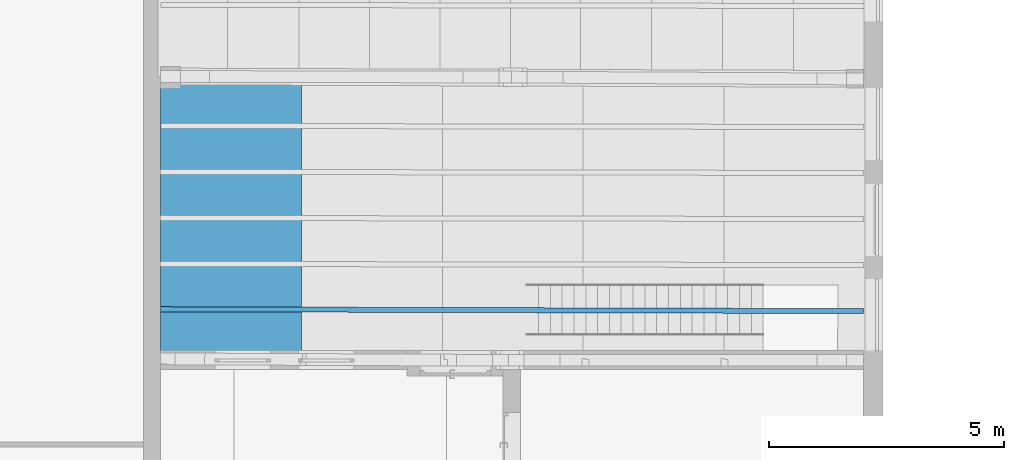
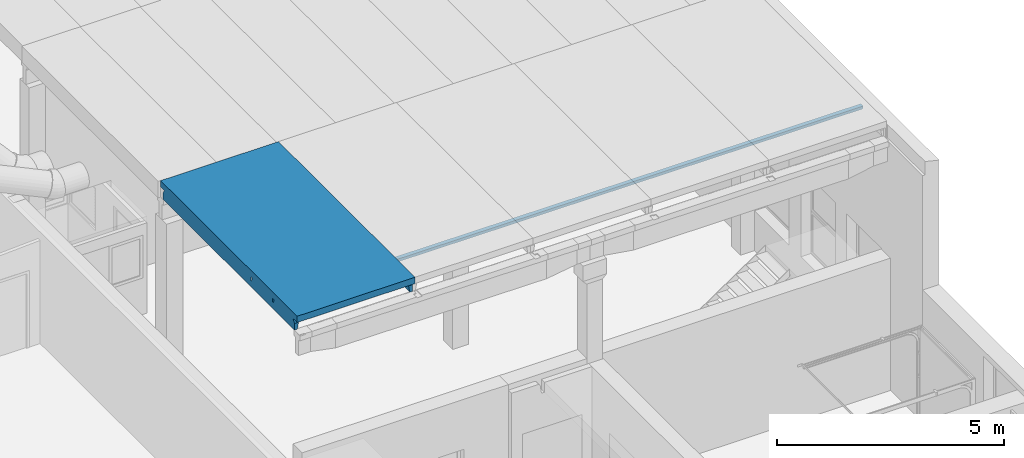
# One storey, part 26 of 301: 2 beams.
"""IFC2X3 building model written with IfcOpenShell, lengths in millimetres."""

from ifc_helpers import new_model, entity, si_unit, converted_unit, derived_unit, money_unit, direction, frame, origin_with_axes, place, context, subcontext, project, spatial, faceted_brep, material, type_object, element, save


model = new_model("IFC2X3")

# Units and contexts
model_context = context("Model", 3, precision=0.01, world=origin_with_axes(), true_north=direction((0.0, 1.0)))
body_context = subcontext(model_context, "Body", "Model", "MODEL_VIEW")
ifc_project = project(units=[si_unit("LENGTHUNIT", "METRE", prefix="MILLI"), si_unit("AREAUNIT", "SQUARE_METRE"), si_unit("VOLUMEUNIT", "CUBIC_METRE"), converted_unit("PLANEANGLEUNIT", "DEGREE", entity("IfcPlaneAngleMeasure", 0.0174532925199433), si_unit("PLANEANGLEUNIT", "RADIAN"), dimensions=[0, 0, 0, 0, 0, 0, 0]), money_unit("EUR"), converted_unit("TIMEUNIT", "Year", entity("IfcTimeMeasure", 31557600.0), si_unit("TIMEUNIT", "SECOND"), dimensions=[0, 0, 1, 0, 0, 0, 0]), si_unit("MASSUNIT", "GRAM", prefix="KILO"), si_unit("THERMODYNAMICTEMPERATUREUNIT", "DEGREE_CELSIUS"), si_unit("LUMINOUSINTENSITYUNIT", "LUMEN"), si_unit("ENERGYUNIT", "JOULE", prefix="MEGA"), derived_unit("THERMALCONDUCTANCEUNIT", [(si_unit("POWERUNIT", "WATT"), 1), (si_unit("LENGTHUNIT", "METRE"), -1), (si_unit("THERMODYNAMICTEMPERATUREUNIT", "KELVIN"), -1)]), derived_unit("SPECIFICHEATCAPACITYUNIT", [(si_unit("ENERGYUNIT", "JOULE"), 1), (si_unit("MASSUNIT", "GRAM", prefix="KILO"), -1), (si_unit("THERMODYNAMICTEMPERATUREUNIT", "KELVIN"), -1)]), derived_unit("MASSDENSITYUNIT", [(si_unit("MASSUNIT", "GRAM", prefix="KILO"), 1), (si_unit("VOLUMEUNIT", "CUBIC_METRE"), -1)])], contexts=[model_context])

# Site, building, storey
site_placement = place(None, frame((0.0, 0.0, 8650.0), z_axis=(0.0, 0.0, 1.0), x_axis=(1.0, 0.0, 0.0)))
site = spatial("IfcSite", under=ifc_project, at=site_placement, Name="43301:001:0844", CompositionType="ELEMENT")
building_placement = place(site_placement, origin_with_axes())
building = spatial("IfcBuilding", under=site, at=building_placement, Name="Kuressaare Ametikooli tuulikute mehaanikute õppekorpus", CompositionType="ELEMENT")
storey_placement = place(building_placement, origin_with_axes())
storey = spatial("IfcBuildingStorey", under=building, at=storey_placement, Name="1.korrus", CompositionType="ELEMENT", Elevation=0.0)

# Beams
ifc_material = material(Name="GENEERILINE - KONSTRUKTRIOON")
beam_type_1 = type_object("IfcBeamType", Name="Precast Double Tee 4 3000 x 440", PredefinedType="NOTDEFINED")
beam_1_placement = place(storey_placement, frame((89758.75644683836, 44085.15228588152, 7100.0), z_axis=(0.0, 0.0, 1.0), x_axis=(-1.0, 0.0, 0.0)))
element("IfcBeam", 1, at=beam_1_placement, inside=storey, type_object=beam_type_1, material=ifc_material, context=body_context, shape_type="Brep", body=[
    faceted_brep([(1500.0, 165.636818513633, -180.532857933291), (1500.0, 133.9641597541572, -221.5483087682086), (1500.0, 108.3720230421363, -266.6089685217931), (1500.0, 108.3714979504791, -440.0001340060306), (1500.0, 5902.994449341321, -440.0001340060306), (1500.0, 5902.993927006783, -267.5188171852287), (1500.0, 5877.401876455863, -222.4581574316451), (1500.0, 5845.729324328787, -181.4427065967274), (1500.0, 5834.766750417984, -169.9098486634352), (1500.0, 6017.898995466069, -169.9098486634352), (1500.0, 6017.898995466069, 0.0), (1500.0, 0.0, 0.0), (1500.004096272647, -1.388578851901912e-05, -168.9999999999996), (1500.0, 176.5994293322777, -168.9999999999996), (1500.0, 4036.32194531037, -175.4075010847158), (1500.0, 4031.747325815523, -184.2033640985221), (1500.0, 4011.007340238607, -271.7806445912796), (1500.0, 3991.006855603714, -271.7806445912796), (1500.0, 3991.006855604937, -169.8331663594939), (1500.0, 4044.5208029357, -169.8331663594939), (1500.0, 4997.144906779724, -184.2033640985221), (1500.0, 4976.404874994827, -271.7806445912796), (1500.0, 4956.404345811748, -271.7806445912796), (1500.0, 4956.404345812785, -169.8331663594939), (1500.0, 5009.918412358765, -169.8331663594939), (1500.0, 5001.71953646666, -175.4075010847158), (1365.910046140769, 166.0913647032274, -180.532857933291), (1371.752641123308, 163.3382519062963, -184.0724353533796), (1384.30381979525, 150.8840002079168, -200.1453415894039), (1390.327470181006, 135.8185824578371, -219.628309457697), (1390.629556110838, 134.334910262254, -221.5483087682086), (1397.719241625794, 108.7187405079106, -266.6089685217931), (1424.999996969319, 108.6257374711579, -440.0001340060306), (1424.999996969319, 5903.158040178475, -440.0001340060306), (1397.862394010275, 5903.216710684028, -267.5188171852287), (1390.772708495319, 5877.640124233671, -222.4581574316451), (1384.303819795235, 5860.424048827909, -200.1453415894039), (1371.752641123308, 5848.039762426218, -184.0724353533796), (1367.411885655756, 5846.018526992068, -181.4427065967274), (1390.327470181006, 5875.455857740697, -219.628309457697), (1354.310838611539, 5838.502659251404, -173.505793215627), (1334.723493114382, 5835.127253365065, -169.9098486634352), (1334.723493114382, 6017.898995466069, -169.9098486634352), (1334.253143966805, 6017.898995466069, -169.8234995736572), (1127.640522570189, 6017.898995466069, -169.9098486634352), (-1500.0, 6017.898995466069, -169.9098486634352), (-1500.0, 6017.898995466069, 0.0), (-1500.0, 0.0, 0.0), (-1500.0, 0.0, -168.9999999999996), (-1500.0, 186.7690097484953, -168.9999999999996), (-1370.461247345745, 175.3672806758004, -180.532857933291), (-1370.286968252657, 175.5518465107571, -180.338069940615), (-1354.45241394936, 183.0083260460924, -172.4372542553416), (-1336.819669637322, 184.3719519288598, -170.9398142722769), (1334.253143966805, 176.3785067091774, -169.8234995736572), (1354.310838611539, 172.8102928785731, -173.505793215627), (-1500.0, 175.8063989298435, -180.532857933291), (1357.449888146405, 4036.555536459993, -175.4075010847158), (1371.752641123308, 4032.025574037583, -184.0724353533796), (1371.854882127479, 4031.957312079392, -184.2033640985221), (1384.30381979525, 4028.161545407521, -200.1453415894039), (1390.327470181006, 4023.53773292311, -219.628309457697), (1398.532934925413, 4011.173610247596, -271.7806445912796), (1398.532934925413, 3971.173556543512, -271.7806445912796), (1499.967227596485, 3971.00734023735, -271.7806445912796), (1499.925744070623, 3945.691820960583, -175.4074260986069), (1499.912309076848, 3937.493052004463, -169.8331663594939), (1499.933240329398, 3950.266448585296, -184.2031688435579), (1334.253127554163, 3937.764511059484, -169.8331663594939), (-1500.0, 3942.408887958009, -169.8331663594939), (-1500.0, 4049.436782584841, -169.8331663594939), (1334.253120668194, 4044.792405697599, -169.8331663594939), (1354.310838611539, 4039.35775525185, -173.505793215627), (1371.854882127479, 4997.487348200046, -184.2033640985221), (1384.303819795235, 4993.678705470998, -200.1453415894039), (1390.327470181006, 4989.048656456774, -219.628309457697), (1398.532934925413, 4976.676024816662, -271.7806445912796), (1398.532934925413, 4936.675881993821, -271.7806445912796), (1499.946555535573, 4936.404874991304, -271.7806445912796), (1499.856995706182, 4902.890661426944, -169.8331663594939), (1499.891129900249, 4915.664029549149, -184.2031688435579), (1499.878905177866, 4911.089412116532, -175.4074260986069), (1334.253130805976, 4903.33320362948, -169.8331663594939), (-1500.0, 4910.907161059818, -169.8331663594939), (-1500.0, 5017.93529414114, -169.8331663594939), (1334.253113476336, 5010.361336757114, -169.8331663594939), (1354.310838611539, 5004.905941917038, -173.505793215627), (1357.449888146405, 5002.100472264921, -175.4075010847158), (1371.752641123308, 4997.555715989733, -184.0724353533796), (1371.752641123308, 1010.450868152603, -184.0724353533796), (1354.310838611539, 1003.175823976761, -173.505793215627), (1357.44976437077, 1005.967659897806, -175.4074260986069), (1371.854729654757, 1010.518694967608, -184.2031688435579), (1384.30381979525, 1014.273875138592, -200.1453415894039), (1390.327470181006, 1018.878149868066, -219.628309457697), (1398.532934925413, 1031.215925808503, -271.7806445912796), (1398.532934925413, 1071.215979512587, -271.7806445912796), (1390.327470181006, 1083.580102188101, -219.628309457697), (1390.327470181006, 1998.295398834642, -219.628309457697), (1398.532934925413, 2010.63317477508, -271.7806445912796), (1398.532934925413, 2050.633228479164, -271.7806445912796), (1390.327470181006, 2062.997351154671, -219.628309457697), (1390.327470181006, 2979.083601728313, -219.628309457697), (1398.532934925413, 2991.42137766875, -271.7806445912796), (1398.532934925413, 3031.421431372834, -271.7806445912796), (1390.327470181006, 3043.785554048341, -219.628309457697), (1390.327470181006, 3958.835780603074, -219.628309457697), (1390.327470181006, 4924.346559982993, -219.628309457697), (-1336.819669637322, 5015.871541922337, -170.9398142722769), (-1336.819669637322, 5841.933488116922, -170.9398142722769), (1127.640522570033, 5835.578945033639, -169.9098486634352), (-1500.0, 5841.310383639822, -169.9098486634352), (-1500.0, 5852.272957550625, -181.4427065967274), (-1500.0, 5883.945509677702, -222.4581574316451), (-1500.0, 5909.537560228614, -267.5188171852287), (-1500.0, 5909.538082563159, -440.0001340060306), (-1500.0, 118.5410783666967, -440.0001340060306), (-1500.0, 118.5416034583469, -266.6089685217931), (-1500.0, 144.1337401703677, -221.5483087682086), (-1500.0, 1010.650048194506, -175.4074260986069), (-1500.0, 1015.224688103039, -184.2031688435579), (-1500.0, 1035.965635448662, -271.7806445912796), (-1500.0, 1075.965689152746, -271.7806445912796), (-1500.0, 1096.705674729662, -184.2033640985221), (-1500.0, 1101.280294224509, -175.4075010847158), (-1500.0, 1109.479151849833, -169.8331663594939), (-1500.0, 1002.451257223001, -169.8331663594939), (-1500.0, 1994.641937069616, -184.2031688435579), (-1500.0, 2015.382884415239, -271.7806445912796), (-1500.0, 2055.382938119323, -271.7806445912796), (-1500.0, 2076.122923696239, -184.2033640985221), (-1500.0, 2080.697543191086, -175.4075010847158), (-1500.0, 2088.896400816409, -169.8331663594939), (-1500.0, 1981.868506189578, -169.8331663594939), (-1500.0, 1990.067297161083, -175.4074260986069), (-1500.0, 2996.171087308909, -271.7806445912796), (-1500.0, 3036.171141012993, -271.7806445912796), (-1500.0, 3056.91112658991, -184.2033640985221), (-1500.0, 3061.485746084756, -175.4075010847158), (-1500.0, 3069.68460371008, -169.8331663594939), (-1500.0, 2962.656709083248, -169.8331663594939), (-1500.0, 2970.855500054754, -175.4074260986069), (-1500.0, 2975.430139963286, -184.2031688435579), (-1500.0, 4015.923319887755, -271.7806445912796), (-1500.0, 4036.663305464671, -184.2033640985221), (-1500.0, 4041.237924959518, -175.4075010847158), (-1500.0, 3950.607678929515, -175.4074260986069), (-1500.0, 3955.182318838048, -184.2031688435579), (-1500.0, 3975.923266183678, -271.7806445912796), (-1500.0, 5005.161788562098, -184.2033640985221), (-1500.0, 5009.736418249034, -175.4075010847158), (-1500.0, 4919.105970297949, -175.4074260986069), (-1500.0, 4923.680620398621, -184.2031688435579), (-1500.0, 4944.421613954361, -271.7806445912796), (-1500.0, 4984.421756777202, -271.7806445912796), (-1370.286968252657, 1013.001906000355, -180.338069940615), (-1382.086528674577, 165.3730746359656, -193.5261847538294), (-1382.086528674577, 1017.239435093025, -193.5261847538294), (-1373.745117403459, 1015.01779929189, -184.2031688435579), (-1360.405134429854, 1010.421299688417, -175.4074260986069), (-1354.45241394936, 1006.042926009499, -172.4372542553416), (-1336.819669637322, 1003.811551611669, -170.9398142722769), (1334.253143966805, 997.8068802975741, -169.8331663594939), (-1388.184278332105, 152.5653986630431, -210.1386333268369), (-1390.259892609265, 143.7617365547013, -221.5483087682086), (1354.310838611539, 4908.681426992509, -173.505793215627), (1357.44976437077, 4911.470024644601, -175.4074260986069), (1371.752641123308, 4915.938458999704, -184.0724353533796), (1371.854729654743, 4916.006180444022, -184.2031688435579), (1384.303819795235, 4919.748501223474, -200.1453415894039), (1384.30381979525, 3954.231505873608, -200.1453415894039), (1371.854729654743, 3950.476325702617, -184.2031688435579), (1357.449764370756, 3945.925290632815, -175.4074260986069), (1354.310838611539, 3943.13345471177, -173.505793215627), (1371.752641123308, 3950.408498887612, -184.0724353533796), (-1354.45241394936, 3946.000556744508, -172.4372542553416), (-1360.40513442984, 3950.378930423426, -175.4074260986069), (-1336.819669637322, 3943.769182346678, -170.9398142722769), (-1336.819669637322, 4047.541702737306, -170.9398142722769), (-1360.405284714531, 4041.009176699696, -175.4075010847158), (-1354.45241394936, 4045.368128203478, -172.4372542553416), (-1360.40513442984, 4918.73293178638, -175.4074260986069), (-1336.819669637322, 4912.098790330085, -170.9398142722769), (-1354.45241394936, 4914.348395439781, -172.4372542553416), (-1360.405284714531, 5009.363380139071, -175.4075010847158), (-1354.45241394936, 5013.716188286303, -172.4372542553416), (1495.094731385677, 997.5433156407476, -169.8331663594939), (1495.108166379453, 1005.742084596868, -175.4074260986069), (1495.115662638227, 1010.316712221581, -184.2031688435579), (1495.149649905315, 1031.057603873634, -271.7806445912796), (1495.215196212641, 1071.057550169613, -271.7806445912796), (1384.30381979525, 1088.203914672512, -200.1453415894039), (1495.249181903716, 1091.79748005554, -184.2033640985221), (1371.854882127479, 1091.999681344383, -184.2033640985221), (1384.30381979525, 1993.691124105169, -200.1453415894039), (1496.720590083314, 1989.731331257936, -184.2031688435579), (1496.754577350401, 2010.472222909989, -271.7806445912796), (1371.854729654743, 1989.935943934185, -184.2031688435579), (1496.820123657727, 2050.472169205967, -271.7806445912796), (1496.854109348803, 2071.212099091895, -184.2033640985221), (1371.854882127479, 2071.416930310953, -184.2033640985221), (1384.30381979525, 2067.621163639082, -200.1453415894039), (1384.30381979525, 2974.479326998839, -200.1453415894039), (1498.361751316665, 2991.257792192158, -271.7806445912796), (1371.854729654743, 2970.724146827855, -184.2031688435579), (1498.327764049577, 2970.516900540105, -184.2031688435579), (1498.427297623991, 3031.257738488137, -271.7806445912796), (1498.461283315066, 3051.997668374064, -184.2033640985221), (1371.854882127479, 3052.20513320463, -184.2033640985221), (1384.30381979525, 3048.409366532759, -200.1453415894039), (-1354.45241394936, 5843.395342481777, -172.4372542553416), (-1371.275299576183, 5851.99218180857, -181.4427065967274), (-1370.286968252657, 5850.940012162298, -180.338069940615), (-1388.184278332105, 5874.188353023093, -210.1386333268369), (-1390.425409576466, 5883.706504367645, -222.4581574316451), (-1382.086528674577, 5861.346749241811, -193.5261847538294), (-1398.622710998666, 5909.316434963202, -267.5188171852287), (-1430.000000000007, 5909.385397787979, -440.0001340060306), (-1430.000000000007, 118.3037881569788, -440.0001340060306), (-1398.457194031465, 118.1973875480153, -266.6089685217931), (-1388.184278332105, 1021.183748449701, -210.1386333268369), (-1399.398009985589, 1035.800783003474, -271.7806445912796), (-1399.398009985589, 1075.800836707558, -271.7806445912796), (-1388.184278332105, 1090.380475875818, -210.1386333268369), (-1382.086528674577, 1094.304631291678, -193.5261847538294), (-1373.745292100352, 1096.498786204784, -184.2033640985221), (-1370.286968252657, 1098.503410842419, -180.338069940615), (-1360.405284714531, 1101.051545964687, -175.4075010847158), (-1354.45241394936, 1105.410497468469, -172.4372542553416), (-1336.819669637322, 1107.584072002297, -170.9398142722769), (1334.253120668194, 1104.83477496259, -169.8331663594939), (1495.270113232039, 1104.570922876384, -169.8331663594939), (-1373.745117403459, 1994.43504825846, -184.2031688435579), (-1382.086528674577, 1996.656684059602, -193.5261847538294), (-1388.184278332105, 2000.600997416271, -210.1386333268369), (-1399.398009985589, 2015.218031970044, -271.7806445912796), (-1399.398009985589, 2055.218085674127, -271.7806445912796), (-1388.184278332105, 2069.797724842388, -210.1386333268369), (-1382.086528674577, 2073.721880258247, -193.5261847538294), (-1373.745292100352, 2075.916035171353, -184.2033640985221), (-1370.286968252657, 2077.920659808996, -180.338069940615), (-1360.405284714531, 2080.468794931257, -175.4075010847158), (-1354.45241394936, 2084.827746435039, -172.4372542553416), (-1336.819669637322, 2087.001320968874, -170.9398142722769), (1334.253120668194, 2084.25202392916, -169.8331663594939), (1496.875040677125, 2083.985541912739, -169.8331663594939), (1496.699658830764, 1976.957934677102, -169.8331663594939), (1334.253124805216, 1977.22412929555, -169.8331663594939), (-1336.819669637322, 1983.228800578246, -170.9398142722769), (-1354.45241394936, 1985.460174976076, -172.4372542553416), (-1360.40513442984, 1989.838548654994, -175.4074260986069), (-1370.286968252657, 1992.419154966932, -180.338069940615), (-1399.398009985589, 2996.006234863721, -271.7806445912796), (-1399.398009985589, 3036.006288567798, -271.7806445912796), (-1388.184278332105, 3050.585927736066, -210.1386333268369), (-1382.086528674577, 3054.510083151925, -193.5261847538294), (-1373.745292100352, 3056.70423806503, -184.2033640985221), (-1370.286968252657, 3058.708862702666, -180.338069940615), (-1360.405284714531, 3061.256997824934, -175.4075010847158), (-1354.45241394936, 3065.615949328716, -172.4372542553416), (-1336.819669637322, 3067.789523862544, -170.9398142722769), (1334.253120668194, 3065.040226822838, -169.8331663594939), (1498.482214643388, 3064.771111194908, -169.8331663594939), (1498.306832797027, 2957.743503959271, -169.8331663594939), (1334.253125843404, 2958.012332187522, -169.8331663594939), (-1336.819669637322, 2964.017003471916, -170.9398142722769), (-1354.45241394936, 2966.248377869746, -172.4372542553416), (-1360.40513442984, 2970.626751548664, -175.4074260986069), (-1370.286968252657, 2973.207357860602, -180.338069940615), (-1373.745117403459, 2975.223251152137, -184.2031688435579), (-1382.086528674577, 2977.444886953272, -193.5261847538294), (-1388.184278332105, 2981.389200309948, -210.1386333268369), (-1382.086528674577, 4034.262262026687, -193.5261847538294), (-1373.745292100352, 4036.456416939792, -184.2033640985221), (-1399.398009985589, 4015.758467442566, -271.7806445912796), (-1388.184278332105, 4030.338106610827, -210.1386333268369), (-1370.286968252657, 4038.461041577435, -180.338069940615), (-1370.286968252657, 3952.959536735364, -180.338069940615), (-1373.745117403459, 3954.975430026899, -184.2031688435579), (-1388.184278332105, 3961.14137918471, -210.1386333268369), (-1399.398009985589, 3975.758413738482, -271.7806445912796), (-1382.086528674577, 3957.197065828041, -193.5261847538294), (-1373.745292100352, 5004.82439887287, -184.2033640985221), (-1370.286968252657, 5006.825453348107, -180.338069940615), (-1373.745117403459, 4923.343230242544, -184.2031688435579), (-1370.286968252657, 4921.323758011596, -180.338069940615), (-1399.398009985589, 4944.152775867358, -271.7806445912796), (-1382.086528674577, 4925.57349292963, -193.5261847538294), (-1388.184278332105, 4929.524117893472, -210.1386333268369), (-1399.398009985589, 4984.152918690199, -271.7806445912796), (-1388.184278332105, 4998.720999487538, -210.1386333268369), (-1382.086528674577, 5002.638860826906, -193.5261847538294), (1371.752641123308, 3052.273395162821, -184.0724353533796), (1354.310838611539, 3059.605576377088, -173.505793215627), (1357.449888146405, 3056.803357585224, -175.4075010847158), (1495.256678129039, 1096.372087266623, -175.4075010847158), (1357.449888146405, 1096.597905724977, -175.4075010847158), (1371.752641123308, 1092.067943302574, -184.0724353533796), (1371.752641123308, 1989.86811711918, -184.0724353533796), (1496.713093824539, 1985.156703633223, -175.4074260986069), (1496.861605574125, 2075.786706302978, -175.4075010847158), (1357.449764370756, 1985.384908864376, -175.4074260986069), (1371.752641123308, 2071.485192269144, -184.0724353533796), (1357.449888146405, 2076.015154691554, -175.4075010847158), (1371.752641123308, 2970.65632001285, -184.0724353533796), (1498.320267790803, 2965.942272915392, -175.4074260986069), (1357.44976437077, 2966.173111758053, -175.4074260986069), (1498.468779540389, 3056.572275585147, -175.4075010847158), (1354.310838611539, 1099.400124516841, -173.505793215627), (1354.310838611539, 2078.817373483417, -173.505793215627), (1354.310838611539, 1982.593072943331, -173.505793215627), (1354.310838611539, 2963.381275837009, -173.505793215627)], [[[0, 1, 2, 3, 4, 5, 6, 7, 8, 9, 10, 11, 12, 13], [14, 15, 16, 17, 18, 19], [20, 21, 22, 23, 24, 25]], [[1, 0, 26, 27, 28, 29, 30]], [[1, 30, 31, 2]], [[2, 31, 32, 3]], [[33, 4, 3, 32]], [[33, 34, 5, 4]], [[34, 35, 6, 5]], [[36, 37, 38, 7, 6, 35, 39]], [[8, 7, 38, 40, 41]], [[41, 42, 9, 8]], [[43, 44, 45, 46, 10, 9, 42]], [[47, 11, 10, 46]], [[47, 48, 12, 11]], [[13, 12, 48, 49]], [[50, 51, 52, 53, 54, 55, 26, 0, 13, 49, 56]], [[15, 14, 57, 58, 59]], [[16, 15, 59, 60, 61, 62]], [[17, 16, 62, 63, 64]], [[65, 66, 18, 17, 64, 67]], [[66, 68, 69, 70, 71, 19, 18]], [[14, 19, 71, 72, 57]], [[20, 73, 74, 75, 76, 21]], [[21, 76, 77, 78, 22]], [[79, 23, 22, 78, 80, 81]], [[82, 83, 84, 85, 24, 23, 79]], [[24, 85, 86, 87, 25]], [[25, 87, 88, 73, 20]], [[89, 27, 26, 55, 90, 91]], [[92, 93, 28, 27, 89]], [[28, 93, 94, 29]], [[77, 76, 75, 39, 35, 34, 33, 32, 31, 30, 29, 94, 95, 96, 97, 98, 99, 100, 101, 102, 103, 104, 105, 106, 63, 62, 61, 107]], [[74, 73, 88, 37, 36]], [[88, 87, 86, 40, 38, 37]], [[39, 75, 74, 36]], [[40, 86, 85, 43, 42, 41]], [[43, 85, 108, 109, 110, 44]], [[111, 45, 44, 110]], [[49, 48, 47, 46, 45, 111, 112, 113, 114, 115, 116, 117, 118, 56], [119, 120, 121, 122, 123, 124, 125, 126], [127, 128, 129, 130, 131, 132, 133, 134], [135, 136, 137, 138, 139, 140, 141, 142], [143, 144, 145, 70, 69, 146, 147, 148], [149, 150, 84, 83, 151, 152, 153, 154]], [[155, 51, 50, 156, 157, 158]], [[159, 160, 52, 51, 155]], [[52, 160, 161, 53]], [[53, 161, 162, 54]], [[54, 162, 90, 55]], [[163, 156, 50, 56, 118, 164]], [[165, 166, 167, 58, 57, 72]], [[167, 168, 169, 60, 59, 58]], [[60, 169, 107, 61]], [[63, 106, 170, 171, 67, 64]], [[65, 172, 173, 68, 66]], [[67, 171, 174, 172, 65]], [[175, 176, 146, 69, 68, 177]], [[178, 71, 70, 145, 179, 180]], [[71, 82, 165, 72]], [[107, 169, 168, 80, 78, 77]], [[168, 167, 166, 81, 80]], [[166, 165, 82, 79, 81]], [[181, 151, 83, 82, 182, 183]], [[85, 84, 150, 184, 185, 108]], [[90, 162, 186, 187, 91]], [[89, 91, 187, 188, 92]], [[92, 188, 189, 95, 94, 93]], [[190, 96, 95, 189]], [[191, 97, 96, 190, 192, 193]], [[194, 98, 97, 191]], [[195, 196, 99, 98, 194, 197]], [[100, 99, 196, 198]], [[101, 100, 198, 199, 200, 201]], [[102, 101, 201, 202]], [[203, 103, 102, 202, 204, 205]], [[103, 203, 206, 104]], [[104, 206, 207, 208, 209, 105]], [[105, 209, 170, 106]], [[109, 108, 185, 210]], [[211, 112, 111, 110, 109, 210, 212]], [[213, 214, 113, 112, 211, 215]], [[114, 113, 214, 216]], [[115, 114, 216, 217]], [[115, 217, 218, 116]], [[219, 117, 116, 218]], [[164, 118, 117, 219]], [[120, 119, 159, 155, 158]], [[120, 158, 157, 220, 221, 121]], [[222, 122, 121, 221]], [[122, 222, 223, 224, 225, 123]], [[124, 123, 225, 226, 227]], [[124, 227, 228, 229, 230, 125]], [[125, 230, 231, 186, 162, 126]], [[126, 162, 161, 160, 159, 119]], [[232, 233, 234, 235, 128, 127]], [[129, 128, 235, 236]], [[236, 237, 238, 239, 130, 129]], [[130, 239, 240, 241, 131]], [[241, 242, 243, 244, 132, 131]], [[244, 245, 246, 247, 133, 132]], [[247, 248, 249, 250, 134, 133]], [[134, 250, 251, 232, 127]], [[135, 252, 253, 136]], [[254, 255, 256, 137, 136, 253]], [[256, 257, 258, 138, 137]], [[259, 260, 261, 139, 138, 258]], [[262, 263, 264, 140, 139, 261]], [[265, 266, 267, 141, 140, 264]], [[267, 268, 269, 142, 141]], [[270, 271, 252, 135, 142, 269]], [[272, 273, 144, 143, 274, 275]], [[276, 179, 145, 144, 273]], [[277, 278, 147, 146, 176]], [[279, 280, 148, 147, 278, 281]], [[280, 274, 143, 148]], [[184, 150, 149, 282, 283]], [[284, 152, 151, 181, 285]], [[286, 153, 152, 284, 287, 288]], [[289, 154, 153, 286]], [[282, 149, 154, 289, 290, 291]], [[163, 220, 157, 156]], [[213, 290, 289, 286, 288, 275, 274, 280, 279, 254, 253, 252, 271, 237, 236, 235, 234, 223, 222, 221, 220, 163, 164, 219, 218, 217, 216, 214]], [[292, 174, 171, 170, 209, 208]], [[293, 173, 172, 174, 292, 294]], [[293, 261, 68, 173]], [[257, 277, 176, 175, 259, 258]], [[261, 260, 177, 68]], [[260, 259, 175, 177]], [[178, 182, 82, 71]], [[285, 181, 183, 180, 179, 276]], [[180, 183, 182, 178]], [[185, 184, 283, 212, 210]], [[187, 186, 231, 295, 192, 190, 189, 188]], [[296, 297, 193, 192, 295]], [[191, 193, 297, 298, 197, 194]], [[195, 299, 246, 245, 300, 199, 198, 196]], [[301, 299, 195, 197, 298]], [[302, 200, 199, 300, 303]], [[200, 302, 304, 204, 202, 201]], [[305, 205, 204, 304, 306]], [[305, 263, 262, 307, 207, 206, 203, 205]], [[208, 207, 307, 294, 292]], [[283, 282, 291, 215, 211, 212]], [[215, 291, 290, 213]], [[234, 233, 224, 223]], [[226, 225, 224, 233, 232, 251]], [[228, 227, 226, 251, 250, 249]], [[249, 248, 229, 228]], [[248, 247, 230, 229]], [[230, 308, 296, 295, 231]], [[270, 238, 237, 271]], [[239, 238, 270, 269, 268, 240]], [[241, 240, 268, 267, 266, 242]], [[265, 243, 242, 266]], [[264, 244, 243, 265]], [[309, 303, 300, 245, 244]], [[247, 246, 299, 301, 310]], [[255, 254, 279, 281]], [[255, 281, 278, 277, 257, 256]], [[263, 305, 306, 311, 264]], [[294, 307, 262, 261, 293]], [[287, 284, 285, 276, 273, 272]], [[275, 288, 287, 272]], [[297, 296, 308, 310, 301, 298]], [[303, 309, 311, 306, 304, 302]], [[247, 310, 308, 230]], [[311, 309, 244, 264]]]),
])
beam_type_2 = type_object("IfcBeamType", Name="Precast Single Tee 2 107 x 102", PredefinedType="NOTDEFINED")
beam_2_placement = place(storey_placement, frame((88258.75644683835, 39128.74794006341, 6930.166833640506), z_axis=(0.0, 0.0, 1.0), x_axis=(-0.002672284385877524, -0.9999964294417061, 0.0)))
element("IfcBeam", 2, at=beam_2_placement, inside=storey, type_object=beam_type_2, material=ifc_material, context=body_context, shape_type="Brep", body=[
    faceted_brep([(45.31502884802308, 0.0, -5.574334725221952), (45.31502884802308, 14968.80935978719, -5.574334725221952), (53.51387546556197, 14968.8093597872, 0.0), (53.51387546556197, 0.0, 0.0), (40.74041549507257, 0.0, -14.37019773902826), (40.74041549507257, 14968.80935978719, -14.37019773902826), (20.00045776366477, 14968.80935978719, -101.9474782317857), (-19.99954223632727, 14968.80935978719, -101.9474782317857), (-40.74046173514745, 14968.80935978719, -14.37000248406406), (-45.31509550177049, 14968.80935978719, -5.574259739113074), (-53.51387546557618, 14968.80935978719, 0.0), (-53.51387546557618, 0.0, 0.0), (-45.31509550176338, 0.0, -5.574259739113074), (-40.74046173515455, 0.0, -14.37000248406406), (-19.99954223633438, 0.0, -101.9474782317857), (20.00045776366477, 0.0, -101.9474782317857)], [[[0, 1, 2, 3]], [[4, 5, 1, 0]], [[2, 1, 5, 6, 7, 8, 9, 10]], [[3, 2, 10, 11]], [[4, 0, 3, 11, 12, 13, 14, 15]], [[15, 6, 5, 4]], [[14, 7, 6, 15]], [[13, 8, 7, 14]], [[12, 9, 8, 13]], [[11, 10, 9, 12]]]),
])

save(model, "model.ifc")
